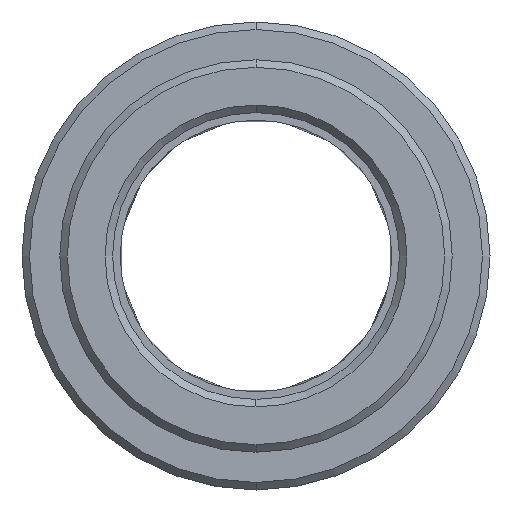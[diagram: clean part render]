
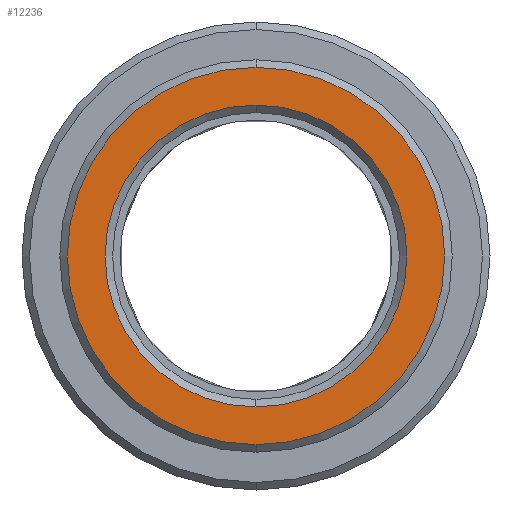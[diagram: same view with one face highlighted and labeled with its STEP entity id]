
A CAD part, left-side view. The second image highlights one B-rep face of the part: STEP entity #12236.
In plain terms, the highlighted planar face has unit normal (-1, 0, 0).
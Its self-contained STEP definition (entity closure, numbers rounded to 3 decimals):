
#4790=CARTESIAN_POINT('',(-8.,0.,0.));
#4791=DIRECTION('',(1.,0.,0.));
#4792=DIRECTION('',(0.,0.,1.));
#4793=AXIS2_PLACEMENT_3D('',#4790,#4791,#4792);
#4795=CARTESIAN_POINT('',(-8.,0.,
0.));
#4796=DIRECTION('',(1.,0.,0.));
#4797=DIRECTION('',(0.,0.,-1.));
#4798=AXIS2_PLACEMENT_3D('',#4795,#4796,#4797);
#4800=CARTESIAN_POINT('',(-8.,0.,0.));
#4801=DIRECTION('',(1.,0.,0.));
#4802=DIRECTION('',(0.,0.,1.));
#4803=AXIS2_PLACEMENT_3D('',#4800,#4801,#4802);
#4805=CARTESIAN_POINT('',(-8.,0.,
0.));
#4806=DIRECTION('',(1.,0.,0.));
#4807=DIRECTION('',(0.,0.,-1.));
#4808=AXIS2_PLACEMENT_3D('',#4805,#4806,#4807);
#10238=CARTESIAN_POINT('',(-8.,0.,10.));
#10239=CARTESIAN_POINT('',(-8.,0.,-10.));
#10240=VERTEX_POINT('',#10238);
#10241=VERTEX_POINT('',#10239);
#10246=CARTESIAN_POINT('',(-8.,0.,12.5));
#10247=CARTESIAN_POINT('',(-8.,0.,-12.5));
#10248=VERTEX_POINT('',#10246);
#10249=VERTEX_POINT('',#10247);
#12220=CARTESIAN_POINT('',(-8.,0.,0.));
#12221=DIRECTION('',(1.,0.,0.));
#12222=DIRECTION('',(0.,0.,1.));
#12223=AXIS2_PLACEMENT_3D('',#12220,#12221,#12222);
#12224=PLANE('',#12223);
#12226=ORIENTED_EDGE('',*,*,#12225,.T.);
#12228=ORIENTED_EDGE('',*,*,#12227,.T.);
#12229=EDGE_LOOP('',(#12226,#12228));
#12230=FACE_OUTER_BOUND('',#12229,.F.);
#12231=ORIENTED_EDGE('',*,*,#12210,.F.);
#12233=ORIENTED_EDGE('',*,*,#12232,.F.);
#12234=EDGE_LOOP('',(#12231,#12233));
#12235=FACE_BOUND('',#12234,.F.);
#12236=ADVANCED_FACE('',(#12230,#12235),#12224,.F.);
#4794=CIRCLE('',#4793,12.5);
#4799=CIRCLE('',#4798,12.5);
#4804=CIRCLE('',#4803,10.);
#4809=CIRCLE('',#4808,10.);
#12210=EDGE_CURVE('',#10240,#10241,#4804,.T.);
#12225=EDGE_CURVE('',#10248,#10249,#4794,.T.);
#12227=EDGE_CURVE('',#10249,#10248,#4799,.T.);
#12232=EDGE_CURVE('',#10241,#10240,#4809,.T.);
